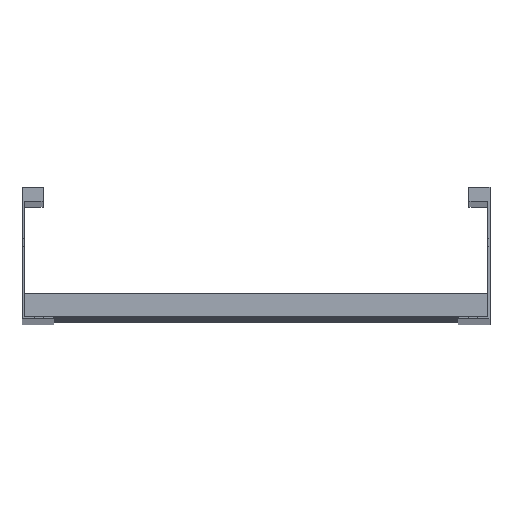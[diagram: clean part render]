
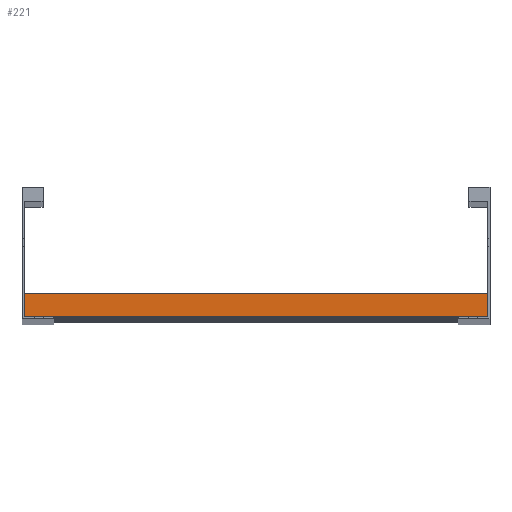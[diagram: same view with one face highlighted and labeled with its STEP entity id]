
A CAD part, top view. The second image highlights one B-rep face of the part: STEP entity #221.
In plain terms, the highlighted planar face has unit normal (0, 0, 1).
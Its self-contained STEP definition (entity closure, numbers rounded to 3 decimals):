
#2 = CARTESIAN_POINT ( 'NONE',  ( 198., 0., 20.25 ) ) ;
#14 = LINE ( 'NONE', #2, #1640 ) ;
#45 = LINE ( 'NONE', #1090, #1214 ) ;
#46 = VERTEX_POINT ( 'NONE', #865 ) ;
#116 = AXIS2_PLACEMENT_3D ( 'NONE', #1341, #125, #646 ) ;
#118 = FACE_OUTER_BOUND ( 'NONE', #876, .T. ) ;
#125 = DIRECTION ( 'NONE',  ( 0., 0., -1. ) ) ;
#147 = LINE ( 'NONE', #804, #1055 ) ;
#187 = VERTEX_POINT ( 'NONE', #1185 ) ;
#221 = ADVANCED_FACE ( 'NONE', ( #118 ), #1063, .F. ) ;
#255 = CARTESIAN_POINT ( 'NONE',  ( 198., 20., 20.25 ) ) ;
#260 = EDGE_CURVE ( 'NONE', #46, #813, #45, .T. ) ;
#283 = ORIENTED_EDGE ( 'NONE', *, *, #1438, .F. ) ;
#312 = CARTESIAN_POINT ( 'NONE',  ( -198., 0., 20.25 ) ) ;
#483 = EDGE_CURVE ( 'NONE', #1021, #46, #565, .T. ) ;
#528 = DIRECTION ( 'NONE',  ( 0., -1., 0. ) ) ;
#565 = LINE ( 'NONE', #680, #777 ) ;
#646 = DIRECTION ( 'NONE',  ( 0., 1., 0. ) ) ;
#648 = DIRECTION ( 'NONE',  ( -1., 0., 0. ) ) ;
#671 = DIRECTION ( 'NONE',  ( 0., -1., 0. ) ) ;
#680 = CARTESIAN_POINT ( 'NONE',  ( 198., 20., 20.25 ) ) ;
#699 = DIRECTION ( 'NONE',  ( -1., 0., 0. ) ) ;
#777 = VECTOR ( 'NONE', #699, 1000. ) ;
#804 = CARTESIAN_POINT ( 'NONE',  ( 198., 20., 20.25 ) ) ;
#813 = VERTEX_POINT ( 'NONE', #312 ) ;
#865 = CARTESIAN_POINT ( 'NONE',  ( -198., 20., 20.25 ) ) ;
#876 = EDGE_LOOP ( 'NONE', ( #959, #283, #1582, #1584 ) ) ;
#959 = ORIENTED_EDGE ( 'NONE', *, *, #260, .T. ) ;
#1021 = VERTEX_POINT ( 'NONE', #255 ) ;
#1051 = EDGE_CURVE ( 'NONE', #1021, #187, #147, .T. ) ;
#1055 = VECTOR ( 'NONE', #528, 1000. ) ;
#1063 = PLANE ( 'NONE',  #116 ) ;
#1090 = CARTESIAN_POINT ( 'NONE',  ( -198., 20., 20.25 ) ) ;
#1185 = CARTESIAN_POINT ( 'NONE',  ( 198., 0., 20.25 ) ) ;
#1214 = VECTOR ( 'NONE', #671, 1000. ) ;
#1341 = CARTESIAN_POINT ( 'NONE',  ( 198., 20., 20.25 ) ) ;
#1438 = EDGE_CURVE ( 'NONE', #187, #813, #14, .T. ) ;
#1582 = ORIENTED_EDGE ( 'NONE', *, *, #1051, .F. ) ;
#1584 = ORIENTED_EDGE ( 'NONE', *, *, #483, .T. ) ;
#1640 = VECTOR ( 'NONE', #648, 1000. ) ;
